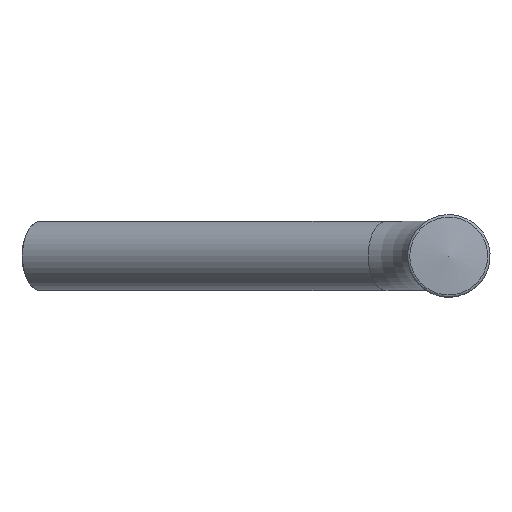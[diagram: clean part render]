
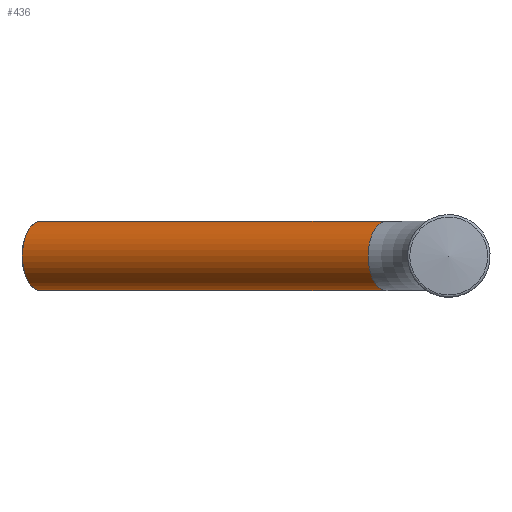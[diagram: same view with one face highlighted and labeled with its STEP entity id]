
A CAD part, left-side view. The second image highlights one B-rep face of the part: STEP entity #436.
In plain terms, the highlighted cylindrical face has radius 13.5 mm (diameter 27 mm), a full revolution.
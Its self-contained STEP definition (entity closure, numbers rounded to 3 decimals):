
#287=CARTESIAN_POINT('',(417.998,31.201,0.));
#288=VERTEX_POINT('',#287);
#289=CARTESIAN_POINT('',(429.57,24.248,0.0));
#290=DIRECTION('',(-0.515,-0.857,0.0));
#291=DIRECTION('',(0.857,-0.515,0.0));
#292=AXIS2_PLACEMENT_3D('',#289,#290,#291);
#293=CIRCLE('',#292,13.5);
#294=EDGE_CURVE('',#288,#288,#293,.T.);
#343=CARTESIAN_POINT('',(511.553,134.48,0.));
#344=VERTEX_POINT('',#343);
#345=CARTESIAN_POINT('',(508.463,129.337,0.));
#346=VERTEX_POINT('',#345);
#347=CARTESIAN_POINT('',(511.553,134.48,0.));
#348=CARTESIAN_POINT('',(511.553,134.48,-0.378));
#349=CARTESIAN_POINT('',(511.499,134.424,-0.78));
#350=CARTESIAN_POINT('',(511.287,134.193,-1.519));
#351=CARTESIAN_POINT('',(511.13,134.019,-1.856));
#352=CARTESIAN_POINT('',(510.784,133.607,-2.387));
#353=CARTESIAN_POINT('',(510.572,133.342,-2.618));
#354=CARTESIAN_POINT('',(510.136,132.742,-2.924));
#355=CARTESIAN_POINT('',(509.913,132.406,-3.));
#356=CARTESIAN_POINT('',(509.524,131.758,-3.));
#357=CARTESIAN_POINT('',(509.332,131.404,-2.924));
#358=CARTESIAN_POINT('',(509.007,130.737,-2.618));
#359=CARTESIAN_POINT('',(508.872,130.426,-2.387));
#360=CARTESIAN_POINT('',(508.671,129.927,-1.856));
#361=CARTESIAN_POINT('',(508.591,129.706,-1.519));
#362=CARTESIAN_POINT('',(508.487,129.411,-0.78));
#363=CARTESIAN_POINT('',(508.463,129.337,-0.378));
#364=CARTESIAN_POINT('',(508.463,129.337,0.));
#365=B_SPLINE_CURVE_WITH_KNOTS('',3,(#347,#348,#349,#350,#351,#352,#353,#354,#355,#356,#357,#358,#359,#360,#361,#362,#363,#364),.UNSPECIFIED.,.F.,.U.,(4,2,2,2,2,2,2,2,4),(0.454,0.567,0.68,0.794,0.907,1.021,1.134,1.248,1.361),.UNSPECIFIED.);
#366=EDGE_CURVE('',#344,#346,#365,.T.);
#368=CARTESIAN_POINT('',(508.463,129.337,0.));
#369=CARTESIAN_POINT('',(508.463,129.337,0.378));
#370=CARTESIAN_POINT('',(508.487,129.411,0.78));
#371=CARTESIAN_POINT('',(508.591,129.706,1.519));
#372=CARTESIAN_POINT('',(508.671,129.927,1.856));
#373=CARTESIAN_POINT('',(508.872,130.426,2.387));
#374=CARTESIAN_POINT('',(509.007,130.737,2.618));
#375=CARTESIAN_POINT('',(509.332,131.404,2.924));
#376=CARTESIAN_POINT('',(509.524,131.758,3.));
#377=CARTESIAN_POINT('',(509.719,132.082,3.));
#378=CARTESIAN_POINT('',(509.913,132.406,3.));
#379=CARTESIAN_POINT('',(510.136,132.742,2.924));
#380=CARTESIAN_POINT('',(510.572,133.342,2.618));
#381=CARTESIAN_POINT('',(510.784,133.607,2.387));
#382=CARTESIAN_POINT('',(511.13,134.019,1.856));
#383=CARTESIAN_POINT('',(511.287,134.193,1.519));
#384=CARTESIAN_POINT('',(511.499,134.424,0.78));
#385=CARTESIAN_POINT('',(511.553,134.48,0.378));
#386=CARTESIAN_POINT('',(511.553,134.48,0.));
#387=B_SPLINE_CURVE_WITH_KNOTS('',3,(#368,#369,#370,#371,#372,#373,#374,#375,#376,#377,#378,#379,#380,#381,#382,#383,#384,#385,#386),.UNSPECIFIED.,.F.,.U.,(4,2,2,2,3,2,2,2,4),(1.361,1.474,1.588,1.701,1.815,1.928,2.041,2.155,2.268),.UNSPECIFIED.);
#388=EDGE_CURVE('',#346,#344,#387,.T.);
#413=CARTESIAN_POINT('',(429.57,24.248,0.0));
#414=DIRECTION('',(0.515,0.857,0.0));
#415=DIRECTION('',(0.857,-0.515,0.0));
#416=AXIS2_PLACEMENT_3D('',#413,#414,#415);
#417=CYLINDRICAL_SURFACE('',#416,13.5);
#418=ORIENTED_EDGE('',*,*,#294,.F.);
#419=EDGE_LOOP('',(#418));
#420=FACE_OUTER_BOUND('',#419,.T.);
#421=ORIENTED_EDGE('',*,*,#366,.T.);
#422=ORIENTED_EDGE('',*,*,#388,.T.);
#423=EDGE_LOOP('',(#421,#422));
#424=FACE_BOUND('',#423,.T.);
#425=CARTESIAN_POINT('',(498.453,165.1,0.));
#426=VERTEX_POINT('',#425);
#427=CARTESIAN_POINT('',(510.025,158.147,0.0));
#428=DIRECTION('',(0.515,0.857,0.0));
#429=DIRECTION('',(0.857,-0.515,0.0));
#430=AXIS2_PLACEMENT_3D('',#427,#428,#429);
#431=CIRCLE('',#430,13.5);
#432=EDGE_CURVE('',#426,#426,#431,.T.);
#433=ORIENTED_EDGE('',*,*,#432,.F.);
#434=EDGE_LOOP('',(#433));
#435=FACE_BOUND('',#434,.T.);
#436=ADVANCED_FACE('',(#420,#424,#435),#417,.T.);
